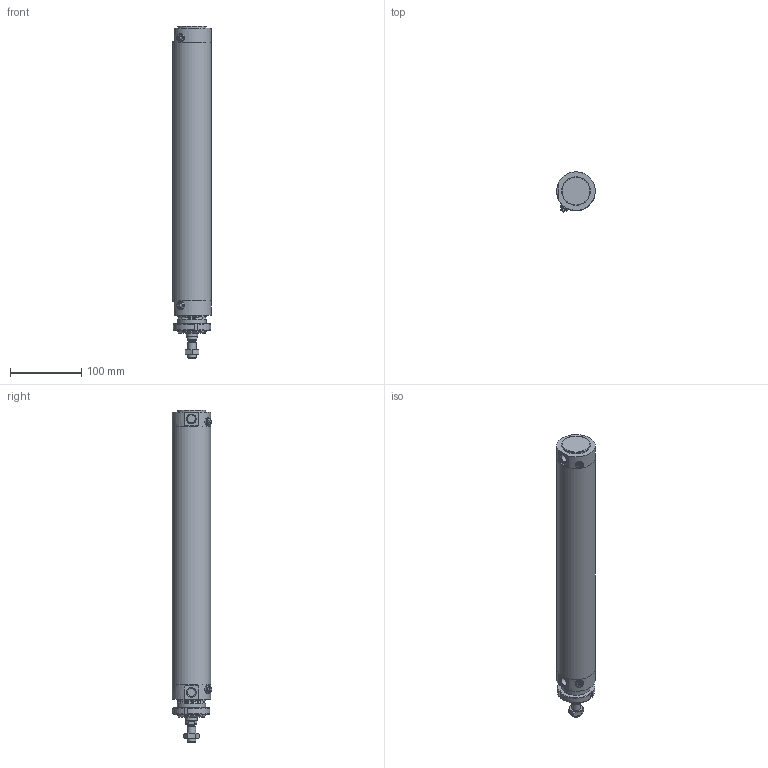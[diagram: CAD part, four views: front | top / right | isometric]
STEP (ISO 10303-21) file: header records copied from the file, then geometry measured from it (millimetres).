
FILE_DESCRIPTION(/* description */ (''),/* implementation_level */ '2;1');
FILE_NAME(/* name */ 'I:\Area Tecnica\Documenti\A-Manieri\_Inventor\12X\12X#D_###_####_#_#\12XBD_050_0320_#_#.stp',/* time_stamp */ '2015-05-04T15:13:05+02:00',/* author */ ('maniean1'),/* organization */ ('Pneumax S.p.A.'),/* preprocessor_version */ 'ST-DEVELOPER v15.2',/* originating_system */ 'Autodesk Inventor 2014',/* authorisation */ '');
FILE_SCHEMA (('AUTOMOTIVE_DESIGN { 1 0 10303 214 3 1 1 }'));
Length unit declared in the file: millimetre
Products named in the file (7): C1250_619-0320; 12X50_606; S12X50_0320; 12X_50_11; 12X50_612; G12X_050_05; 12XBD_050_0320_#_#
Bounding box: 54 x 55.88 x 465 mm (x, y, z)
Volume: 405072.2 mm3; surface area: 176485.8 mm2
Topology: 6 solids, 6 shells, 99 faces, 217 edges, 140 vertices
Faces by surface type: plane 53, cylinder 25, cone 19, torus 2
Full cylindrical faces by diameter (mm): 5 x2, 10.2 x1, 11 x2, 11.4 x2, 12 x2, 14 x1, 15.6 x1, 16 x1, 38.2 x1, 40 x4, 50 x2, 54 x3
Entity records: 2667 total; most frequent: CARTESIAN_POINT 540, DIRECTION 444, ORIENTED_EDGE 348, AXIS2_PLACEMENT_3D 188, EDGE_CURVE 174, EDGE_LOOP 152, VERTEX_POINT 132, ADVANCED_FACE 99
